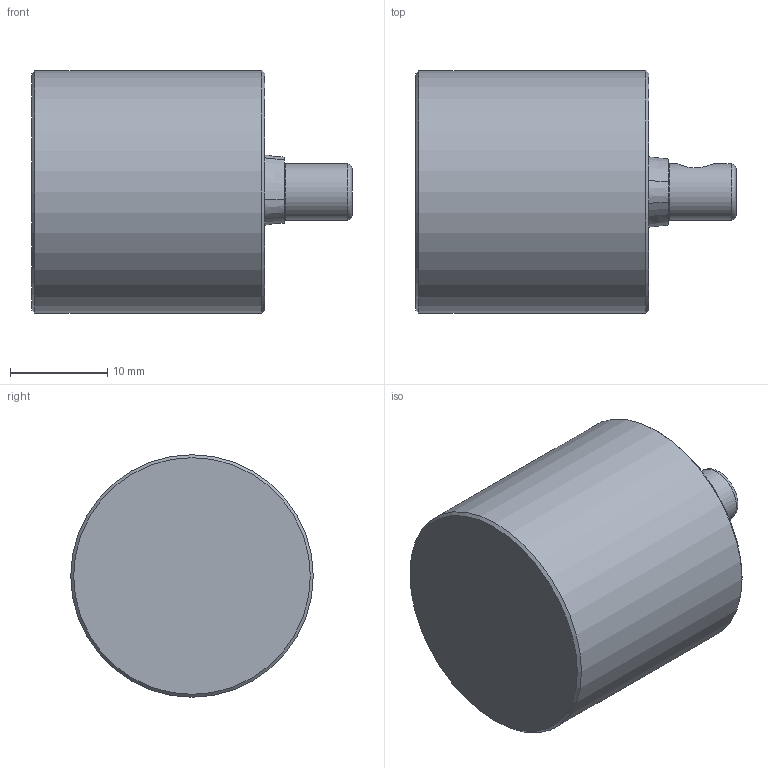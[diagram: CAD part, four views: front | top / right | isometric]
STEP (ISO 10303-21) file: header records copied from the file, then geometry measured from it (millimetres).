
FILE_DESCRIPTION(/* description */ (''),/* implementation_level */ '2;1');
FILE_NAME(/* name */ 'WEBDA_E00022200_00_Kunde.stp',/* time_stamp */ '2021-03-04T14:55:06+01:00',/* author */ (''),/* organization */ (''),/* preprocessor_version */ 'ST-DEVELOPER v16',/* originating_system */ 'SIEMENS PLM Software NX 11.0',/* authorisation */ '');
FILE_SCHEMA (('AUTOMOTIVE_DESIGN { 1 0 10303 214 3 1 1 1 }'));
Length unit declared in the file: millimetre
Products named in the file (1): ja.h4D3CE94Ffw12
Bounding box: 33 x 25 x 25 mm (x, y, z)
Volume: 12008.6 mm3; surface area: 3050.1 mm2
Topology: 1 solids, 2 shells, 28 faces, 67 edges, 45 vertices
Faces by surface type: cone 15, plane 6, cylinder 5, torus 2
Full cylindrical faces by diameter (mm): 1.5 x2, 2 x1, 5.79 x1, 25 x1
Entity records: 874 total; most frequent: CARTESIAN_POINT 259, DIRECTION 128, ORIENTED_EDGE 98, AXIS2_PLACEMENT_3D 61, EDGE_CURVE 49, EDGE_LOOP 44, VERTEX_POINT 40, FACE_BOUND 32
